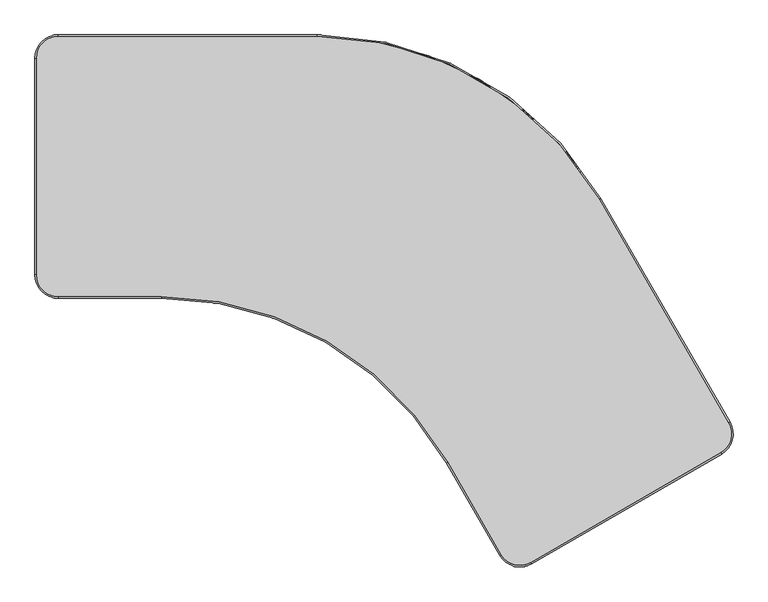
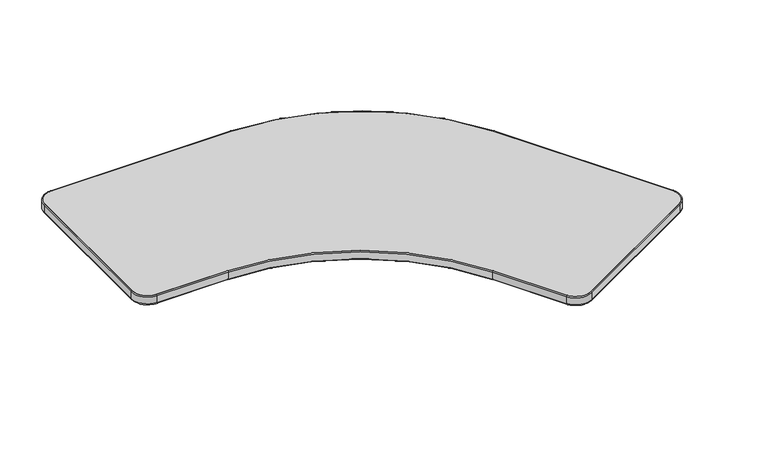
"""IFC4 building model written with IfcOpenShell, lengths in millimetres: furniture geometry, Steelcase - Answer Solution - Universal Table - Corner 120deg - 3mm Edge : 24D x 42W."""

from ifc_helpers import new_model, si_unit, point, frame, frame_2d, origin, place, context, project, spatial, polyline, circle_curve, ellipse_curve, trimmed, segment, composite_curve, outline, extrude, source, transform, mapped, element, save
from ifc_brep_helpers import plane_surface, cylinder_surface, revolved_surface, advanced_brep


def furniture_68b23aa5(model_context):
    return source(origin(), model_context, "Body", "SolidModel", [
        advanced_brep(
        [(53.8515842, -609.5840268, 641.1116623), (0.0, -555.7324426, 641.1116623), (3.0515842, -555.7324426, 638.1749651), (53.8515842, -606.5324426, 638.1749651), (53.8515842, -609.5840268, 665.3021988), (0.0, -555.7324426, 665.3021988), (53.8515842, -606.5324426, 668.274), (3.0515842, -555.7324426, 668.274), (292.4021059, -606.5324426, 638.1749651), (292.4021059, -609.5840268, 641.1116623), (292.4021059, -609.5840268, 665.3021988), (292.4021059, -606.5324426, 668.274), (952.7745288, -990.8502229, 641.1116623), (955.4172783, -989.3244308, 638.1749651), (952.7745288, -990.8502229, 665.3021988), (955.4172783, -989.3244308, 668.274), (1078.8749139, -1203.1593283, 638.1749651), (1076.2321644, -1204.6851203, 641.1116623), (1076.2321644, -1204.6851203, 665.3021988), (1078.8749139, -1203.1593283, 668.274), (1149.7947964, -1224.3961682, 641.1116623), (1148.2690044, -1221.7534188, 638.1749651), (1149.7947964, -1224.3961682, 665.3021988), (1148.2690044, -1221.7534188, 668.274), (1588.2099095, -967.7534188, 638.1749651), (1589.7357016, -970.3961682, 641.1116623), (1589.7357016, -970.3961682, 665.3021988), (1588.2099095, -967.7534188, 668.274), (1609.4467494, -896.8335362, 641.1116623), (1606.804, -898.3593283, 638.1749651), (1609.4467494, -896.8335362, 665.3021988), (1606.804, -898.3593283, 668.274), (1308.0111321, -380.8349001, 638.1749651), (1310.6538815, -379.3091081, 641.1116623), (1310.6538815, -379.3091081, 665.3021988), (1308.0111321, -380.8349001, 668.274), (653.5990357, 0.041684, 641.1116623), (653.5990357, -3.0099001, 638.1749651), (653.5990357, 0.041684, 665.3021988), (653.5990357, -3.0099001, 668.274), (53.8515842, -3.0099001, 638.1749651), (53.8515842, 0.041684, 641.1116623), (53.8515842, 0.041684, 665.3021988), (53.8515842, -3.0099001, 668.274), (0.0, -53.8099001, 641.1116623), (3.0515842, -53.8099001, 638.1749651), (0.0, -53.8099001, 665.3021988), (3.0515842, -53.8099001, 668.274)],
        [
            (0, 1, circle_curve(frame((53.8515842, -555.7324426, 641.1116623), z_axis=(0.0, 0.0, -1.0), x_axis=(-1.0, 0.0, 0.0)), 53.8515842)),
            (1, 2, circle_curve(frame((2.9388598, -555.7324426, 641.1116623), z_axis=(0.0, -1.0, 0.0), x_axis=(1.0, 0.0, 0.0)), 2.9388598)),
            (2, 3, circle_curve(frame((53.8515842, -555.7324426, 638.1749651), z_axis=(0.0, 0.0, 1.0), x_axis=(-1.0, 0.0, 0.0)), 50.8)),
            (3, 0, circle_curve(frame((53.8515842, -606.6451669, 641.1116623), z_axis=(-1.0, 0.0, 0.0), x_axis=(0.0, 1.0, 0.0)), 2.9388598)),
            (4, 5, circle_curve(frame((53.8515842, -555.7324426, 665.3021988), z_axis=(0.0, 0.0, -1.0), x_axis=(-1.0, 0.0, 0.0)), 53.8515842)),
            (5, 1),
            (0, 4),
            (6, 7, circle_curve(frame((53.8515842, -555.7324426, 668.274), z_axis=(0.0, 0.0, -1.0), x_axis=(-1.0, 0.0, 0.0)), 50.8)),
            (7, 5, circle_curve(frame((2.9728441, -555.7324426, 665.3021988), z_axis=(0.0, -1.0, 0.0), x_axis=(1.0, 0.0, 0.0)), 2.9728441)),
            (4, 6, circle_curve(frame((53.8515842, -606.6111826, 665.3021988), z_axis=(-1.0, 0.0, 0.0), x_axis=(0.0, 1.0, 0.0)), 2.9728441)),
            (2, 7),
            (6, 3),
            (3, 8),
            (8, 9, circle_curve(frame((292.4021059, -606.6451669, 641.1116623), z_axis=(-1.0, 0.0, 0.0), x_axis=(0.0, 1.0, 0.0)), 2.9388598)),
            (9, 0),
            (9, 10),
            (10, 4),
            (10, 11, circle_curve(frame((292.4021059, -606.6111826, 665.3021988), z_axis=(-1.0, 0.0, 0.0), x_axis=(0.0, 1.0, 0.0)), 2.9728441)),
            (11, 6),
            (11, 8),
            (12, 9, circle_curve(frame((292.4021059, -1372.116419, 641.1116623), z_axis=(0.0, 0.0, 1.0), x_axis=(0.0, 1.0, 0.0)), 762.5323923)),
            (8, 13, circle_curve(frame((292.4021059, -1372.116419, 638.1749651), z_axis=(0.0, 0.0, -1.0), x_axis=(0.0, 1.0, 0.0)), 765.5839765)),
            (13, 12, circle_curve(frame((955.3196561, -989.380793, 641.1116623), z_axis=(-0.4999999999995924, 0.866025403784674, 0.0), x_axis=(0.866025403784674, 0.4999999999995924, 0.0)), 2.9388598)),
            (14, 10, circle_curve(frame((292.4021059, -1372.116419, 665.3021988), z_axis=(0.0, 0.0, 1.0), x_axis=(0.0, 1.0, 0.0)), 762.5323923)),
            (12, 14),
            (15, 11, circle_curve(frame((292.4021059, -1372.116419, 668.274), z_axis=(0.0, 0.0, 1.0), x_axis=(0.0, 1.0, 0.0)), 765.5839765)),
            (14, 15, circle_curve(frame((955.3490874, -989.3638008, 665.3021988), z_axis=(-0.4999999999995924, 0.866025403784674, 0.0), x_axis=(0.866025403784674, 0.4999999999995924, 0.0)), 2.9728441)),
            (15, 13),
            (13, 16),
            (16, 17, circle_curve(frame((1078.7772917, -1203.2156904, 641.1116623), z_axis=(-0.4999999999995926, 0.8660254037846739, 0.0), x_axis=(0.8660254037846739, 0.4999999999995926, 0.0)), 2.9388598)),
            (17, 12),
            (17, 18),
            (18, 14),
            (18, 19, circle_curve(frame((1078.806723, -1203.1986983, 665.3021988), z_axis=(-0.4999999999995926, 0.8660254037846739, 0.0), x_axis=(0.8660254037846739, 0.4999999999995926, 0.0)), 2.9728441)),
            (19, 15),
            (19, 16),
            (20, 17, circle_curve(frame((1122.8690044, -1177.7593283, 641.1116623), z_axis=(0.0, 0.0, -1.0), x_axis=(-0.8660254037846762, -0.49999999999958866, 0.0)), 53.8515842)),
            (16, 21, circle_curve(frame((1122.8690044, -1177.7593283, 638.1749651), z_axis=(0.0, 0.0, 1.0), x_axis=(-0.8660254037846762, -0.49999999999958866, 0.0)), 50.8)),
            (21, 20, circle_curve(frame((1148.3253665, -1221.8510409, 641.1116623), z_axis=(-0.8660254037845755, -0.4999999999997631, 0.0), x_axis=(-0.4999999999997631, 0.8660254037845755, 0.0)), 2.9388598)),
            (22, 18, circle_curve(frame((1122.8690044, -1177.7593283, 665.3021988), z_axis=(0.0, 0.0, -1.0), x_axis=(-0.8660254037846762, -0.49999999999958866, 0.0)), 53.8515842)),
            (20, 22),
            (23, 19, circle_curve(frame((1122.8690044, -1177.7593283, 668.274), z_axis=(0.0, 0.0, -1.0), x_axis=(-0.8660254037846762, -0.49999999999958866, 0.0)), 50.8)),
            (22, 23, circle_curve(frame((1148.3083744, -1221.8216097, 665.3021988), z_axis=(-0.8660254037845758, -0.49999999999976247, 0.0), x_axis=(-0.49999999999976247, 0.8660254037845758, 0.0)), 2.9728441)),
            (23, 21),
            (21, 24),
            (24, 25, circle_curve(frame((1588.2662716, -967.8510409, 641.1116623), z_axis=(-0.866025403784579, -0.4999999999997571, 0.0), x_axis=(-0.4999999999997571, 0.866025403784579, 0.0)), 2.9388598)),
            (25, 20),
            (25, 26),
            (26, 22),
            (26, 27, circle_curve(frame((1588.2492795, -967.8216097, 665.3021988), z_axis=(-0.866025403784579, -0.4999999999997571, 0.0), x_axis=(-0.4999999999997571, 0.866025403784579, 0.0)), 2.9728441)),
            (27, 23),
            (27, 24),
            (28, 25, circle_curve(frame((1562.8099095, -923.7593283, 641.1116623), z_axis=(0.0, 0.0, -1.0), x_axis=(0.49999999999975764, -0.8660254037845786, 0.0)), 53.8515842)),
            (24, 29, circle_curve(frame((1562.8099095, -923.7593283, 638.1749651), z_axis=(0.0, 0.0, 1.0), x_axis=(0.49999999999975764, -0.8660254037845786, 0.0)), 50.8)),
            (29, 28, circle_curve(frame((1606.9016221, -898.3029661, 641.1116623), z_axis=(0.5000000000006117, -0.8660254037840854, 0.0), x_axis=(-0.8660254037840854, -0.5000000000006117, 0.0)), 2.9388598)),
            (30, 26, circle_curve(frame((1562.8099095, -923.7593283, 665.3021988), z_axis=(0.0, 0.0, -1.0), x_axis=(0.49999999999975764, -0.8660254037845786, 0.0)), 53.8515842)),
            (28, 30),
            (31, 27, circle_curve(frame((1562.8099095, -923.7593283, 668.274), z_axis=(0.0, 0.0, -1.0), x_axis=(0.49999999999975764, -0.8660254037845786, 0.0)), 50.8)),
            (30, 31, circle_curve(frame((1606.8721909, -898.3199582, 665.3021988), z_axis=(0.5000000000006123, -0.8660254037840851, 0.0), x_axis=(-0.8660254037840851, -0.5000000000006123, 0.0)), 2.9728441)),
            (31, 29),
            (29, 32),
            (32, 33, circle_curve(frame((1308.1087542, -380.778538, 641.1116623), z_axis=(0.5000000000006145, -0.8660254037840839, 0.0), x_axis=(-0.8660254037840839, -0.5000000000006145, 0.0)), 2.9388598)),
            (33, 28),
            (33, 34),
            (34, 30),
            (34, 35, circle_curve(frame((1308.079323, -380.7955301, 665.3021988), z_axis=(0.5000000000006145, -0.8660254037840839, 0.0), x_axis=(-0.8660254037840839, -0.5000000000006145, 0.0)), 2.9728441)),
            (35, 31),
            (35, 32),
            (36, 33, circle_curve(frame((653.5990357, -758.6599001, 641.1116623), z_axis=(0.0, 0.0, -1.0), x_axis=(0.8660254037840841, 0.5000000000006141, 0.0)), 758.7015842)),
            (32, 37, circle_curve(frame((653.5990357, -758.6599001, 638.1749651), z_axis=(0.0, 0.0, 1.0), x_axis=(0.8660254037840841, 0.5000000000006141, 0.0)), 755.65)),
            (37, 36, circle_curve(frame((653.5990357, -2.8971758, 641.1116623), z_axis=(1.0, 0.0, 0.0), x_axis=(0.0, -1.0, 0.0)), 2.9388598)),
            (38, 34, circle_curve(frame((653.5990357, -758.6599001, 665.3021988), z_axis=(0.0, 0.0, -1.0), x_axis=(0.8660254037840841, 0.5000000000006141, 0.0)), 758.7015842)),
            (36, 38),
            (39, 35, circle_curve(frame((653.5990357, -758.6599001, 668.274), z_axis=(0.0, 0.0, -1.0), x_axis=(0.8660254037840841, 0.5000000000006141, 0.0)), 755.65)),
            (38, 39, circle_curve(frame((653.5990357, -2.9311601, 665.3021988), z_axis=(1.0, 0.0, 0.0), x_axis=(0.0, -1.0, 0.0)), 2.9728441)),
            (39, 37),
            (37, 40),
            (40, 41, circle_curve(frame((53.8515842, -2.8971758, 641.1116623), z_axis=(1.0, 0.0, 0.0), x_axis=(0.0, -1.0, 0.0)), 2.9388598)),
            (41, 36),
            (41, 42),
            (42, 38),
            (42, 43, circle_curve(frame((53.8515842, -2.9311601, 665.3021988), z_axis=(1.0, 0.0, 0.0), x_axis=(0.0, -1.0, 0.0)), 2.9728441)),
            (43, 39),
            (43, 40),
            (44, 41, circle_curve(frame((53.8515842, -53.8099001, 641.1116623), z_axis=(0.0, 0.0, -1.0), x_axis=(0.0, 1.0, 0.0)), 53.8515842)),
            (40, 45, circle_curve(frame((53.8515842, -53.8099001, 638.1749651), z_axis=(0.0, 0.0, 1.0), x_axis=(0.0, 1.0, 0.0)), 50.8)),
            (45, 44, circle_curve(frame((2.9388598, -53.8099001, 641.1116623), z_axis=(0.0, 1.0, 0.0), x_axis=(1.0, 0.0, 0.0)), 2.9388598)),
            (46, 42, circle_curve(frame((53.8515842, -53.8099001, 665.3021988), z_axis=(0.0, 0.0, -1.0), x_axis=(0.0, 1.0, 0.0)), 53.8515842)),
            (44, 46),
            (47, 43, circle_curve(frame((53.8515842, -53.8099001, 668.274), z_axis=(0.0, 0.0, -1.0), x_axis=(0.0, 1.0, 0.0)), 50.8)),
            (46, 47, circle_curve(frame((2.9728441, -53.8099001, 665.3021988), z_axis=(0.0, 1.0, 0.0), x_axis=(1.0, 0.0, 0.0)), 2.9728441)),
            (47, 45),
            (45, 2),
            (1, 44),
            (5, 46),
            (7, 47),
        ],
        [
            revolved_surface(trimmed(ellipse_curve(frame((2.9388598, -555.7324426, 641.1116623), z_axis=(0.0, 1.0, 0.0), x_axis=(1.0, 0.0, 0.0)), 2.9388598, 2.9388598), [point((3.0515842, -555.7324426, 638.1749651))], [point((0.0, -555.7324426, 641.1116623))], True, "CARTESIAN"), (53.8515842, -555.7324426, 638.1749651), (0.0, 0.0, 1.0)),
            cylinder_surface(frame((53.8515842, -555.7324426, 638.1749651), z_axis=(0.0, 0.0, 1.0), x_axis=(-1.0, 0.0, 0.0)), 53.8515842),
            revolved_surface(trimmed(ellipse_curve(frame((2.9728441, -555.7324426, 665.3021988), z_axis=(0.0, 1.0, 0.0), x_axis=(1.0, 0.0, 0.0)), 2.9728441, 2.9728441), [point((0.0, -555.7324426, 665.3021988))], [point((3.0515842, -555.7324426, 668.274))], True, "CARTESIAN"), (53.8515842, -555.7324426, 638.1749651), (0.0, 0.0, 1.0)),
            revolved_surface(polyline([(3.0515842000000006, -555.7324426, 668.274), (3.0515842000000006, -555.7324426, 638.1749651)]), (53.8515842, -555.7324426, 638.1749651), (0.0, 0.0, 1.0)),
            cylinder_surface(frame((53.8515842, -606.6451669, 641.1116623), z_axis=(-1.0, 0.0, 0.0), x_axis=(0.0, 1.0, 0.0)), 2.9388598),
            plane_surface(frame((53.8515842, -609.5840268, 641.1116623), z_axis=(0.0, -1.0, 0.0), x_axis=(1.0, 0.0, 0.0))),
            cylinder_surface(frame((53.8515842, -606.6111826, 665.3021988), z_axis=(-1.0, 0.0, 0.0), x_axis=(0.0, 1.0, 0.0)), 2.9728441),
            plane_surface(frame((53.8515842, -606.5324426, 668.274), z_axis=(0.0, 1.0, 0.0), x_axis=(1.0, 0.0, 0.0))),
            revolved_surface(trimmed(ellipse_curve(frame((292.4021059, -606.6451669, 641.1116623), z_axis=(-1.0, 0.0, 0.0), x_axis=(0.0, 1.0, 0.0)), 2.9388598, 2.9388598), [point((292.4021059, -606.5324426, 638.1749651))], [point((292.4021059, -609.5840268, 641.1116623))], True, "CARTESIAN"), (292.4021059, -1372.116419, 638.1749651), (0.0, 0.0, -1.0)),
            revolved_surface(polyline([(292.4021059, -609.5840267, 641.1116623), (292.4021059, -609.5840267, 665.3021988)]), (292.4021059, -1372.116419, 638.1749651), (0.0, 0.0, -1.0)),
            revolved_surface(trimmed(ellipse_curve(frame((292.4021059, -606.6111826, 665.3021988), z_axis=(-1.0, 0.0, 0.0), x_axis=(0.0, 1.0, 0.0)), 2.9728441, 2.9728441), [point((292.4021059, -609.5840268, 665.3021988))], [point((292.4021059, -606.5324426, 668.274))], True, "CARTESIAN"), (292.4021059, -1372.116419, 638.1749651), (0.0, 0.0, -1.0)),
            cylinder_surface(frame((292.4021059, -1372.116419, 638.1749651), z_axis=(0.0, 0.0, -1.0), x_axis=(0.0, 1.0, 0.0)), 765.5839765),
            cylinder_surface(frame((955.3196561, -989.380793, 641.1116623), z_axis=(-0.4999999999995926, 0.8660254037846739, 0.0), x_axis=(0.8660254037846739, 0.4999999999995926, 0.0)), 2.9388598),
            plane_surface(frame((952.7745288, -990.8502229, 641.1116623), z_axis=(-0.8660254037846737, -0.49999999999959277, 0.0), x_axis=(0.49999999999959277, -0.8660254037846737, 0.0))),
            cylinder_surface(frame((955.3490874, -989.3638008, 665.3021988), z_axis=(-0.4999999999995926, 0.8660254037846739, 0.0), x_axis=(0.8660254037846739, 0.4999999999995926, 0.0)), 2.9728441),
            plane_surface(frame((955.4172783, -989.3244308, 668.274), z_axis=(0.8660254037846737, 0.49999999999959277, 0.0), x_axis=(0.49999999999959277, -0.8660254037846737, 0.0))),
            revolved_surface(trimmed(ellipse_curve(frame((1078.7772917, -1203.2156904, 641.1116623), z_axis=(-0.4999999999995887, 0.8660254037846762, 0.0), x_axis=(0.8660254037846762, 0.4999999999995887, 0.0)), 2.9388598, 2.9388598), [point((1078.8749139, -1203.1593283, 638.1749651))], [point((1076.2321644, -1204.6851203, 641.1116623))], True, "CARTESIAN"), (1122.8690044, -1177.7593283, 638.1749651), (0.0, 0.0, 1.0)),
            cylinder_surface(frame((1122.8690044, -1177.7593283, 638.1749651), z_axis=(0.0, 0.0, 1.0), x_axis=(-0.8660254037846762, -0.49999999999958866, 0.0)), 53.8515842),
            revolved_surface(trimmed(ellipse_curve(frame((1078.806723, -1203.1986983, 665.3021988), z_axis=(-0.4999999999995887, 0.8660254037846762, 0.0), x_axis=(0.8660254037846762, 0.4999999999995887, 0.0)), 2.9728441, 2.9728441), [point((1076.2321644, -1204.6851203, 665.3021988))], [point((1078.8749139, -1203.1593283, 668.274))], True, "CARTESIAN"), (1122.8690044, -1177.7593283, 638.1749651), (0.0, 0.0, 1.0)),
            revolved_surface(polyline([(1078.8749138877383, -1203.1593282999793, 668.274), (1078.8749138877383, -1203.1593282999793, 638.1749651)]), (1122.8690044, -1177.7593283, 638.1749651), (0.0, 0.0, 1.0)),
            cylinder_surface(frame((1148.3253665, -1221.8510409, 641.1116623), z_axis=(-0.866025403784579, -0.4999999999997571, 0.0), x_axis=(-0.4999999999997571, 0.866025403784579, 0.0)), 2.9388598),
            plane_surface(frame((1149.7947964, -1224.3961682, 641.1116623), z_axis=(0.4999999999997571, -0.8660254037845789, 0.0), x_axis=(0.8660254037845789, 0.4999999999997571, 0.0))),
            cylinder_surface(frame((1148.3083744, -1221.8216097, 665.3021988), z_axis=(-0.866025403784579, -0.4999999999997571, 0.0), x_axis=(-0.4999999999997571, 0.866025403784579, 0.0)), 2.9728441),
            plane_surface(frame((1148.2690044, -1221.7534188, 668.274), z_axis=(-0.49999999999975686, 0.866025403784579, 0.0), x_axis=(0.866025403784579, 0.49999999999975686, 0.0))),
            revolved_surface(trimmed(ellipse_curve(frame((1588.2662716, -967.8510409, 641.1116623), z_axis=(-0.8660254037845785, -0.4999999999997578, 0.0), x_axis=(-0.4999999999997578, 0.8660254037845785, 0.0)), 2.9388598, 2.9388598), [point((1588.2099095, -967.7534188, 638.1749651))], [point((1589.7357016, -970.3961682, 641.1116623))], True, "CARTESIAN"), (1562.8099095, -923.7593283, 638.1749651), (0.0, 0.0, 1.0)),
            cylinder_surface(frame((1562.8099095, -923.7593283, 638.1749651), z_axis=(0.0, 0.0, 1.0), x_axis=(0.49999999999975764, -0.8660254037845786, 0.0)), 53.8515842),
            revolved_surface(trimmed(ellipse_curve(frame((1588.2492795, -967.8216097, 665.3021988), z_axis=(-0.8660254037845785, -0.4999999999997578, 0.0), x_axis=(-0.4999999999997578, 0.8660254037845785, 0.0)), 2.9728441, 2.9728441), [point((1589.7357016, -970.3961682, 665.3021988))], [point((1588.2099095, -967.7534188, 668.274))], True, "CARTESIAN"), (1562.8099095, -923.7593283, 638.1749651), (0.0, 0.0, 1.0)),
            revolved_surface(polyline([(1588.2099094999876, -967.7534188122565, 668.274), (1588.2099094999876, -967.7534188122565, 638.1749651)]), (1562.8099095, -923.7593283, 638.1749651), (0.0, 0.0, 1.0)),
            cylinder_surface(frame((1606.9016221, -898.3029661, 641.1116623), z_axis=(0.5000000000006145, -0.8660254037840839, 0.0), x_axis=(-0.8660254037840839, -0.5000000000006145, 0.0)), 2.9388598),
            plane_surface(frame((1609.4467494, -896.8335362, 641.1116623), z_axis=(0.866025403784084, 0.5000000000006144, 0.0), x_axis=(-0.5000000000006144, 0.866025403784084, 0.0))),
            cylinder_surface(frame((1606.8721909, -898.3199582, 665.3021988), z_axis=(0.5000000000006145, -0.8660254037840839, 0.0), x_axis=(-0.8660254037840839, -0.5000000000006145, 0.0)), 2.9728441),
            plane_surface(frame((1606.804, -898.3593283, 668.274), z_axis=(-0.866025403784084, -0.5000000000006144, 0.0), x_axis=(-0.5000000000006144, 0.866025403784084, 0.0))),
            revolved_surface(trimmed(ellipse_curve(frame((1308.1087542, -380.778538, 641.1116623), z_axis=(0.5000000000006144, -0.8660254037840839, 0.0), x_axis=(-0.8660254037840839, -0.5000000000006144, 0.0)), 2.9388598, 2.9388598), [point((1308.0111321, -380.8349001, 638.1749651))], [point((1310.6538815, -379.3091081, 641.1116623))], True, "CARTESIAN"), (653.5990357, -758.6599001, 638.1749651), (0.0, 0.0, 1.0)),
            cylinder_surface(frame((653.5990357, -758.6599001, 638.1749651), z_axis=(0.0, 0.0, 1.0), x_axis=(0.8660254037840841, 0.5000000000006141, 0.0)), 758.7015842),
            revolved_surface(trimmed(ellipse_curve(frame((1308.079323, -380.7955301, 665.3021988), z_axis=(0.5000000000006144, -0.8660254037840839, 0.0), x_axis=(-0.8660254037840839, -0.5000000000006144, 0.0)), 2.9728441, 2.9728441), [point((1310.6538815, -379.3091081, 665.3021988))], [point((1308.0111321, -380.8349001, 668.274))], True, "CARTESIAN"), (653.5990357, -758.6599001, 638.1749651), (0.0, 0.0, 1.0)),
            revolved_surface(polyline([(1308.0111320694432, -380.83490009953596, 668.274), (1308.0111320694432, -380.83490009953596, 638.1749651)]), (653.5990357, -758.6599001, 638.1749651), (0.0, 0.0, 1.0)),
            cylinder_surface(frame((653.5990357, -2.8971758, 641.1116623), z_axis=(1.0, 0.0, 0.0), x_axis=(0.0, -1.0, 0.0)), 2.9388598),
            plane_surface(frame((653.5990357, 0.041684, 641.1116623), z_axis=(0.0, 1.0, 0.0), x_axis=(-1.0, 0.0, 0.0))),
            cylinder_surface(frame((653.5990357, -2.9311601, 665.3021988), z_axis=(1.0, 0.0, 0.0), x_axis=(0.0, -1.0, 0.0)), 2.9728441),
            plane_surface(frame((653.5990357, -3.0099001, 668.274), z_axis=(0.0, -1.0, 0.0), x_axis=(-1.0, 0.0, 0.0))),
            revolved_surface(trimmed(ellipse_curve(frame((53.8515842, -2.8971758, 641.1116623), z_axis=(1.0, 0.0, 0.0), x_axis=(0.0, -1.0, 0.0)), 2.9388598, 2.9388598), [point((53.8515842, -3.0099001, 638.1749651))], [point((53.8515842, 0.041684, 641.1116623))], True, "CARTESIAN"), (53.8515842, -53.8099001, 638.1749651), (0.0, 0.0, 1.0)),
            cylinder_surface(frame((53.8515842, -53.8099001, 638.1749651), z_axis=(0.0, 0.0, 1.0), x_axis=(0.0, 1.0, 0.0)), 53.8515842),
            revolved_surface(trimmed(ellipse_curve(frame((53.8515842, -2.9311601, 665.3021988), z_axis=(1.0, 0.0, 0.0), x_axis=(0.0, -1.0, 0.0)), 2.9728441, 2.9728441), [point((53.8515842, 0.041684, 665.3021988))], [point((53.8515842, -3.0099001, 668.274))], True, "CARTESIAN"), (53.8515842, -53.8099001, 638.1749651), (0.0, 0.0, 1.0)),
            revolved_surface(polyline([(53.8515842, -3.009900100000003, 668.274), (53.8515842, -3.009900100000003, 638.1749651)]), (53.8515842, -53.8099001, 638.1749651), (0.0, 0.0, 1.0)),
            cylinder_surface(frame((2.9388598, -53.8099001, 641.1116623), z_axis=(0.0, 1.0, 0.0), x_axis=(1.0, 0.0, 0.0)), 2.9388598),
            plane_surface(frame((0.0, -53.8099001, 641.1116623), z_axis=(-1.0, 0.0, 0.0), x_axis=(0.0, -1.0, 0.0))),
            cylinder_surface(frame((2.9728441, -53.8099001, 665.3021988), z_axis=(0.0, 1.0, 0.0), x_axis=(1.0, 0.0, 0.0)), 2.9728441),
            plane_surface(frame((3.0515842, -53.8099001, 668.274), z_axis=(1.0, 0.0, 0.0), x_axis=(0.0, -1.0, 0.0))),
        ],
        [
            (0, [[1, 2, 3, 4]]),
            (1, [[5, 6, -1, 7]]),
            (2, [[8, 9, -5, 10]]),
            (3, [[-3, 11, -8, 12]]),
            (4, [[-4, 13, 14, 15]]),
            (5, [[-7, -15, 16, 17]]),
            (6, [[-10, -17, 18, 19]]),
            (7, [[-12, -19, 20, -13]]),
            (8, [[21, -14, 22, 23]]),
            (9, [[24, -16, -21, 25]]),
            (10, [[26, -18, -24, 27]]),
            (11, [[-22, -20, -26, 28]]),
            (12, [[-23, 29, 30, 31]]),
            (13, [[-25, -31, 32, 33]]),
            (14, [[-27, -33, 34, 35]]),
            (15, [[-28, -35, 36, -29]]),
            (16, [[37, -30, 38, 39]]),
            (17, [[40, -32, -37, 41]]),
            (18, [[42, -34, -40, 43]]),
            (19, [[-38, -36, -42, 44]]),
            (20, [[-39, 45, 46, 47]]),
            (21, [[-41, -47, 48, 49]]),
            (22, [[-43, -49, 50, 51]]),
            (23, [[-44, -51, 52, -45]]),
            (24, [[53, -46, 54, 55]]),
            (25, [[56, -48, -53, 57]]),
            (26, [[58, -50, -56, 59]]),
            (27, [[-54, -52, -58, 60]]),
            (28, [[-55, 61, 62, 63]]),
            (29, [[-57, -63, 64, 65]]),
            (30, [[-59, -65, 66, 67]]),
            (31, [[-60, -67, 68, -61]]),
            (32, [[69, -62, 70, 71]]),
            (33, [[72, -64, -69, 73]]),
            (34, [[74, -66, -72, 75]]),
            (35, [[-70, -68, -74, 76]]),
            (36, [[-71, 77, 78, 79]]),
            (37, [[-73, -79, 80, 81]]),
            (38, [[-75, -81, 82, 83]]),
            (39, [[-76, -83, 84, -77]]),
            (40, [[85, -78, 86, 87]]),
            (41, [[88, -80, -85, 89]]),
            (42, [[90, -82, -88, 91]]),
            (43, [[-86, -84, -90, 92]]),
            (44, [[-87, 93, -2, 94]]),
            (45, [[-89, -94, -6, 95]]),
            (46, [[-91, -95, -9, 96]]),
            (47, [[-92, -96, -11, -93]]),
        ],
    ),
        extrude(outline(composite_curve([segment(polyline([(53.8515842, -3.0099001), (653.5990357, -3.0099001)]), True, "CONTINUOUS"), segment(trimmed(circle_curve(frame_2d((653.5990357, -758.6599001)), 755.65), [point((653.5990357, -3.0099001))], [point((1308.0111321, -380.8349001))], False, "CARTESIAN"), True, "CONTINUOUS"), segment(polyline([(1308.0111321, -380.8349001), (1606.804, -898.3593283)]), True, "CONTINUOUS"), segment(trimmed(circle_curve(frame_2d((1562.8099095, -923.7593283)), 50.8), [point((1606.804, -898.3593283))], [point((1588.2099095, -967.7534188))], False, "CARTESIAN"), True, "CONTINUOUS"), segment(polyline([(1588.2099095, -967.7534188), (1148.2690044, -1221.7534188)]), True, "CONTINUOUS"), segment(trimmed(circle_curve(frame_2d((1122.8690044, -1177.7593283)), 50.8), [point((1148.2690044, -1221.7534188))], [point((1078.8749139, -1203.1593283))], False, "CARTESIAN"), True, "CONTINUOUS"), segment(polyline([(1078.8749139, -1203.1593283), (955.4172783, -989.3244308)]), True, "CONTINUOUS"), segment(trimmed(circle_curve(frame_2d((292.4021059, -1372.116419)), 765.5839765), [point((955.4172783, -989.3244308))], [point((292.4021059, -606.5324426))], True, "CARTESIAN"), True, "CONTINUOUS"), segment(polyline([(292.4021059, -606.5324426), (53.8515842, -606.5324426)]), True, "CONTINUOUS"), segment(trimmed(circle_curve(frame_2d((53.8515842, -555.7324426)), 50.8), [point((53.8515842, -606.5324426))], [point((3.0515842, -555.7324426))], False, "CARTESIAN"), True, "CONTINUOUS"), segment(polyline([(3.0515842, -555.7324426), (3.0515842, -53.8099001)]), True, "CONTINUOUS"), segment(trimmed(circle_curve(frame_2d((53.8515842, -53.8099001)), 50.8), [point((3.0515842, -53.8099001))], [point((53.8515842, -3.0099001))], False, "CARTESIAN"), True, "CONTINUOUS")], self_intersect=False)), frame((0.0, 0.0, 638.1749651), z_axis=(0.0, 0.0, 1.0), x_axis=(1.0, 0.0, 0.0)), (0.0, 0.0, 1.0), 30.0990349),
    ])


if __name__ == "__main__":
    model = new_model("IFC4")
    model_context = context("Model", 3, world=origin())
    ifc_project = project(units=[si_unit("LENGTHUNIT", "METRE", prefix="MILLI")], contexts=[model_context])
    site = spatial("IfcSite", under=ifc_project)
    building = spatial("IfcBuilding", under=site)
    placement = place(None, origin())
    furniture_shape = furniture_68b23aa5(model_context)
    element("IfcFurniture", 1, ObjectType="Steelcase - Answer Solution - Universal Table - Corner 120deg - 3mm Edge : 24D x 42W", at=placement, inside=building, context=model_context, shape_type="MappedRepresentation", body=[
        mapped(furniture_shape, transform((0.0, 0.0, 0.0), x_axis=(1.0, 0.0, 0.0), y_axis=(0.0, 1.0, 0.0), z_axis=(0.0, 0.0, 1.0))),
    ])
    save(model, "model.ifc")
